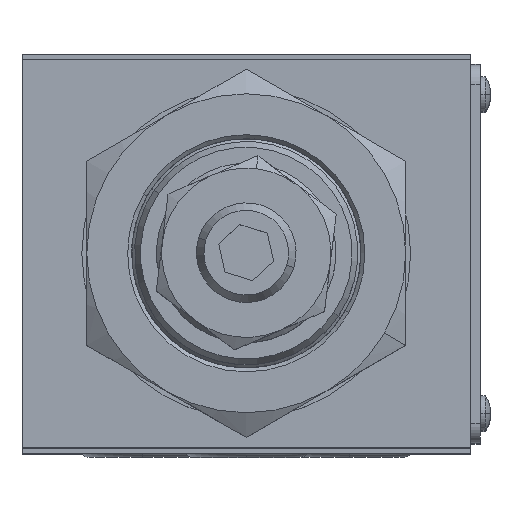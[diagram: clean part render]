
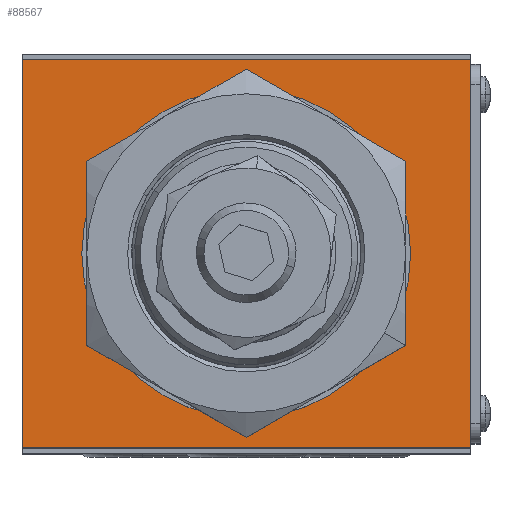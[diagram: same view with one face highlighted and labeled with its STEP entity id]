
A CAD part, top view. The second image highlights one B-rep face of the part: STEP entity #88567.
In plain terms, the highlighted planar face has unit normal (0, 0, 1).
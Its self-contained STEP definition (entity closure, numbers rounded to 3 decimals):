
#593 = DIRECTION ( 'NONE',  ( 1., 0., 0. ) ) ;
#2876 = VECTOR ( 'NONE', #45323, 1000. ) ;
#3083 = DIRECTION ( 'NONE',  ( 0., 1., 0. ) ) ;
#6638 = AXIS2_PLACEMENT_3D ( 'NONE', #98516, #52943, #7366 ) ;
#7366 = DIRECTION ( 'NONE',  ( 1., 0., 0. ) ) ;
#9643 = DIRECTION ( 'NONE',  ( 0., 0., 1. ) ) ;
#10231 = EDGE_CURVE ( 'NONE', #90195, #83267, #20489, .T. ) ;
#10527 = ORIENTED_EDGE ( 'NONE', *, *, #73170, .T. ) ;
#12545 = CIRCLE ( 'NONE', #6638, 16.5 ) ;
#12913 = CARTESIAN_POINT ( 'NONE',  ( -22.5, 19.5, 47.5 ) ) ;
#15583 = CARTESIAN_POINT ( 'NONE',  ( -22.5, -20., 47.5 ) ) ;
#16455 = VECTOR ( 'NONE', #88068, 1000. ) ;
#18098 = CARTESIAN_POINT ( 'NONE',  ( 22.5, 20., 47.5 ) ) ;
#20489 = CIRCLE ( 'NONE', #60517, 16.5 ) ;
#20748 = LINE ( 'NONE', #21776, #2876 ) ;
#20836 = EDGE_CURVE ( 'NONE', #83267, #90195, #12545, .T. ) ;
#21776 = CARTESIAN_POINT ( 'NONE',  ( -22.5, -19.5, 47.5 ) ) ;
#21914 = CARTESIAN_POINT ( 'NONE',  ( 22.5, -19.5, 47.5 ) ) ;
#28661 = ORIENTED_EDGE ( 'NONE', *, *, #34536, .T. ) ;
#34370 = EDGE_CURVE ( 'NONE', #38614, #55081, #20748, .T. ) ;
#34536 = EDGE_CURVE ( 'NONE', #38614, #63915, #98042, .T. ) ;
#38614 = VERTEX_POINT ( 'NONE', #21914 ) ;
#39842 = EDGE_LOOP ( 'NONE', ( #64193, #28661, #56322, #10527 ) ) ;
#42893 = CARTESIAN_POINT ( 'NONE',  ( -22.5, 20., 47.5 ) ) ;
#45323 = DIRECTION ( 'NONE',  ( -1., 0., 0. ) ) ;
#46112 = DIRECTION ( 'NONE',  ( 0., 0., 1. ) ) ;
#47833 = ORIENTED_EDGE ( 'NONE', *, *, #20836, .F. ) ;
#50880 = DIRECTION ( 'NONE',  ( 0., -1., 0. ) ) ;
#52047 = VERTEX_POINT ( 'NONE', #81197 ) ;
#52433 = EDGE_CURVE ( 'NONE', #52047, #63915, #95001, .T. ) ;
#52943 = DIRECTION ( 'NONE',  ( 0., 0., 1. ) ) ;
#55081 = VERTEX_POINT ( 'NONE', #86672 ) ;
#55212 = CARTESIAN_POINT ( 'NONE',  ( 0., 0., 47.5 ) ) ;
#56322 = ORIENTED_EDGE ( 'NONE', *, *, #52433, .F. ) ;
#59234 = AXIS2_PLACEMENT_3D ( 'NONE', #15583, #46112, #593 ) ;
#59441 = VECTOR ( 'NONE', #50880, 1000. ) ;
#60517 = AXIS2_PLACEMENT_3D ( 'NONE', #55212, #9643, #62818 ) ;
#62818 = DIRECTION ( 'NONE',  ( 1., 0., 0. ) ) ;
#63915 = VERTEX_POINT ( 'NONE', #74381 ) ;
#64193 = ORIENTED_EDGE ( 'NONE', *, *, #34370, .F. ) ;
#66856 = FACE_OUTER_BOUND ( 'NONE', #39842, .T. ) ;
#69261 = FACE_BOUND ( 'NONE', #93964, .T. ) ;
#73170 = EDGE_CURVE ( 'NONE', #52047, #55081, #79707, .T. ) ;
#74381 = CARTESIAN_POINT ( 'NONE',  ( 22.5, 19.5, 47.5 ) ) ;
#77814 = VECTOR ( 'NONE', #3083, 1000. ) ;
#79707 = LINE ( 'NONE', #42893, #59441 ) ;
#81197 = CARTESIAN_POINT ( 'NONE',  ( -22.5, 19.5, 47.5 ) ) ;
#83267 = VERTEX_POINT ( 'NONE', #93597 ) ;
#83353 = ORIENTED_EDGE ( 'NONE', *, *, #10231, .F. ) ;
#86672 = CARTESIAN_POINT ( 'NONE',  ( -22.5, -19.5, 47.5 ) ) ;
#88068 = DIRECTION ( 'NONE',  ( 1., 0., 0. ) ) ;
#88567 = ADVANCED_FACE ( 'NONE', ( #69261, #66856 ), #91737, .T. ) ;
#90195 = VERTEX_POINT ( 'NONE', #94901 ) ;
#91737 = PLANE ( 'NONE',  #59234 ) ;
#93597 = CARTESIAN_POINT ( 'NONE',  ( 16.5, 0., 47.5 ) ) ;
#93964 = EDGE_LOOP ( 'NONE', ( #47833, #83353 ) ) ;
#94901 = CARTESIAN_POINT ( 'NONE',  ( -16.5, 0., 47.5 ) ) ;
#95001 = LINE ( 'NONE', #12913, #16455 ) ;
#98042 = LINE ( 'NONE', #18098, #77814 ) ;
#98516 = CARTESIAN_POINT ( 'NONE',  ( 0., 0., 47.5 ) ) ;
